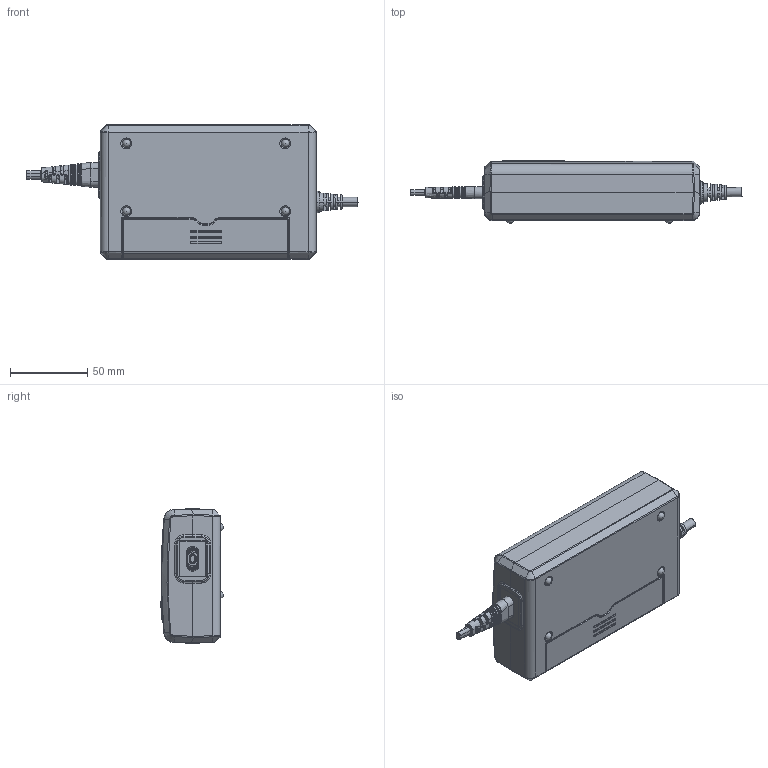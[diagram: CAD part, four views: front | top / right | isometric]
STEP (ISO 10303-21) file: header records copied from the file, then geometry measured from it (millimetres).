
FILE_DESCRIPTION (( 'STEP AP203' ), '1' );
FILE_NAME ('TP2.STEP', '2014-01-16T03:51:41', ( 'stanley' ), ( '' ), 'SwSTEP 2.0', 'SolidWorks 2010', '' );
FILE_SCHEMA (( 'CONFIG_CONTROL_DESIGN' ));
Length unit declared in the file: millimetre
Products named in the file (1): TP2
Bounding box: 215.15 x 40.54 x 87 mm (x, y, z)
Volume: 453442.8 mm3; surface area: 44580.7 mm2
Topology: 1 solids, 1 shells, 1746 faces, 4923 edges, 3226 vertices
Faces by surface type: plane 1360, cylinder 194, bspline 136, torus 48, cone 4, sphere 4
Entity records: 85249 total; most frequent: CARTESIAN_POINT 47212, ORIENTED_EDGE 9822, DIRECTION 5867, EDGE_CURVE 4911, VERTEX_POINT 3218, AXIS2_PLACEMENT_3D 2076, EDGE_LOOP 1797, FACE_OUTER_BOUND 1746
